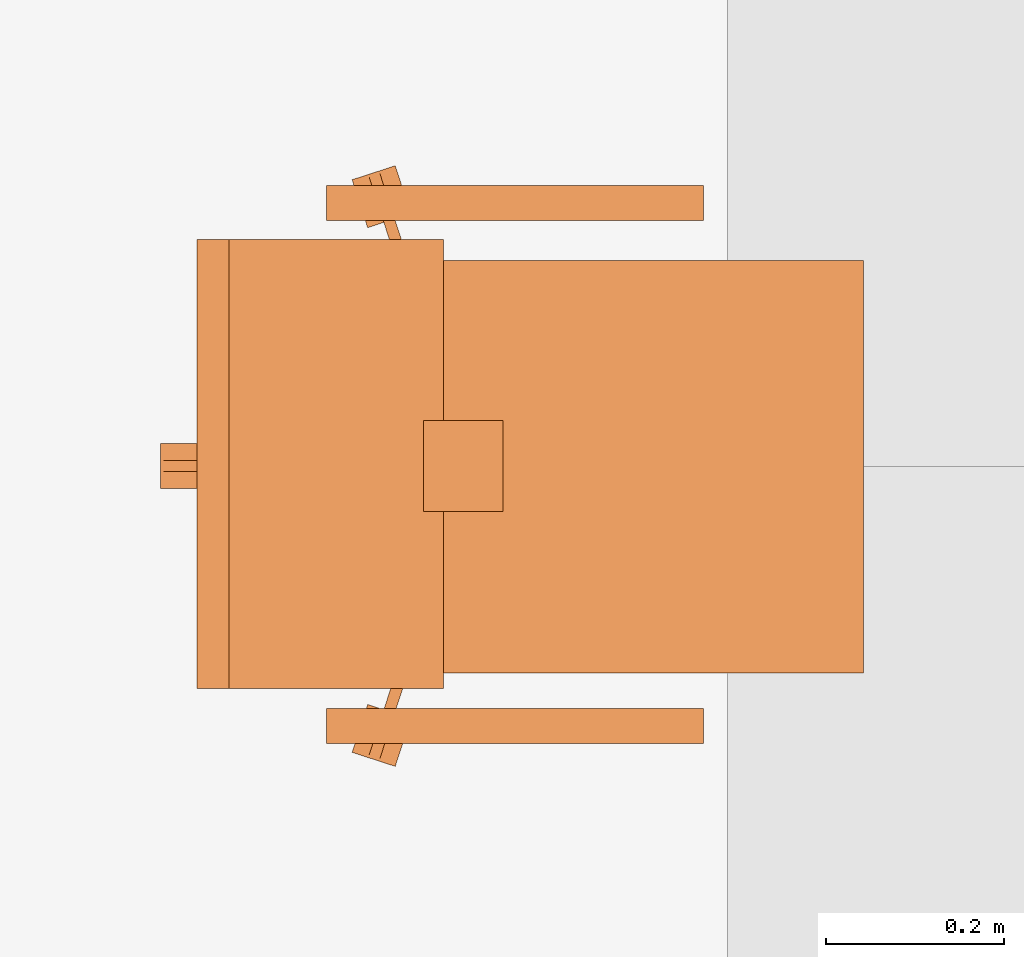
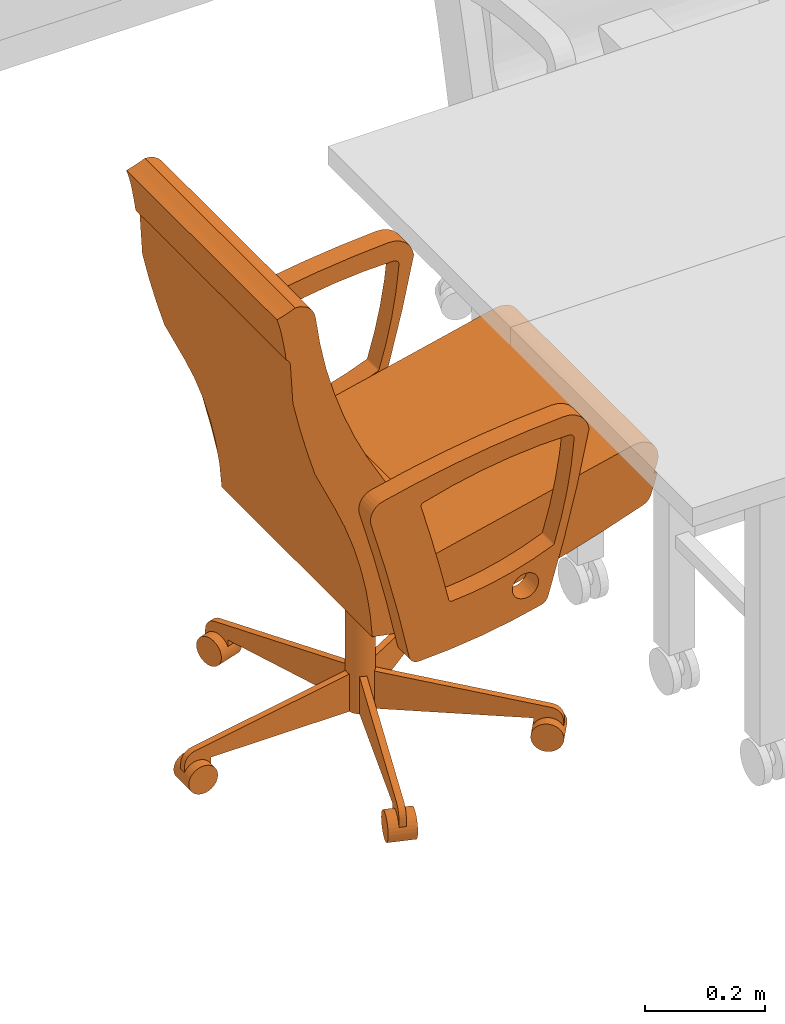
# One storey, part 59 of 142: 1 proxy.
"""IFC2X3 building model written with IfcOpenShell, lengths in feet."""

from ifc_helpers import new_model, entity, si_unit, converted_unit, derived_unit, direction, frame, frame_2d, origin, place, context, subcontext, project, spatial, polyline, circle_curve, parameter, trimmed, segment, composite_curve, circle, outline, extrude, source, transform, mapped, type_object, type_shapes, element, save


model = new_model("IFC2X3")

# Units and contexts
model_context = context("Model", 3, precision=0.0001, world=origin(), true_north=direction((6.12303176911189e-17, 1.0)))
body_context = subcontext(model_context, "Body", "Model", "MODEL_VIEW")
ifc_project = project(units=[converted_unit("LENGTHUNIT", "FOOT", entity("IfcRatioMeasure", 0.3048), si_unit("LENGTHUNIT", "METRE"), dimensions=[1, 0, 0, 0, 0, 0, 0]), converted_unit("AREAUNIT", "SQUARE FOOT", entity("IfcRatioMeasure", 0.09290304), si_unit("AREAUNIT", "SQUARE_METRE"), dimensions=[2, 0, 0, 0, 0, 0, 0]), converted_unit("VOLUMEUNIT", "CUBIC FOOT", entity("IfcRatioMeasure", 0.028316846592), si_unit("VOLUMEUNIT", "CUBIC_METRE"), dimensions=[3, 0, 0, 0, 0, 0, 0]), converted_unit("PLANEANGLEUNIT", "DEGREE", entity("IfcRatioMeasure", 0.0174532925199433), si_unit("PLANEANGLEUNIT", "RADIAN"), dimensions=[0, 0, 0, 0, 0, 0, 0]), si_unit("MASSUNIT", "GRAM", prefix="KILO"), derived_unit("MASSDENSITYUNIT", [(si_unit("MASSUNIT", "GRAM", prefix="KILO"), 1), (si_unit("LENGTHUNIT", "METRE"), -3)]), si_unit("TIMEUNIT", "SECOND"), si_unit("FREQUENCYUNIT", "HERTZ"), si_unit("THERMODYNAMICTEMPERATUREUNIT", "DEGREE_CELSIUS"), derived_unit("THERMALTRANSMITTANCEUNIT", [(si_unit("MASSUNIT", "GRAM", prefix="KILO"), 1), (si_unit("THERMODYNAMICTEMPERATUREUNIT", "KELVIN"), -1), (si_unit("TIMEUNIT", "SECOND"), -3)]), derived_unit("VOLUMETRICFLOWRATEUNIT", [(si_unit("LENGTHUNIT", "METRE"), 3), (si_unit("TIMEUNIT", "SECOND"), -1)]), si_unit("ELECTRICCURRENTUNIT", "AMPERE"), si_unit("ELECTRICVOLTAGEUNIT", "VOLT"), si_unit("POWERUNIT", "WATT"), si_unit("FORCEUNIT", "NEWTON"), si_unit("ILLUMINANCEUNIT", "LUX"), si_unit("LUMINOUSFLUXUNIT", "LUMEN"), si_unit("LUMINOUSINTENSITYUNIT", "CANDELA"), derived_unit("USERDEFINED", [(si_unit("MASSUNIT", "GRAM", prefix="KILO"), -1), (si_unit("LENGTHUNIT", "METRE"), -2), (si_unit("TIMEUNIT", "SECOND"), 3), (si_unit("LUMINOUSFLUXUNIT", "LUMEN"), 1)]), derived_unit("LINEARVELOCITYUNIT", [(si_unit("LENGTHUNIT", "METRE"), 1), (si_unit("TIMEUNIT", "SECOND"), -1)]), si_unit("PRESSUREUNIT", "PASCAL"), derived_unit("USERDEFINED", [(si_unit("LENGTHUNIT", "METRE"), -2), (si_unit("MASSUNIT", "GRAM", prefix="KILO"), 1), (si_unit("TIMEUNIT", "SECOND"), -2)])], contexts=[model_context])

# Site, building, storey, space
site_placement = place(None, origin())
site = spatial("IfcSite", under=ifc_project, at=site_placement, Name="Default", CompositionType="ELEMENT")
building_placement = place(site_placement, origin())
building = spatial("IfcBuilding", under=site, at=building_placement, Name="OUTPATIENT / PACT CLINIC (Ch. 265)", CompositionType="ELEMENT")
storey_placement = place(building_placement, origin())
storey = spatial("IfcBuildingStorey", under=building, at=storey_placement, Name="LEVEL 1", CompositionType="ELEMENT", Elevation=0.0)
space_placement = place(storey_placement, origin())
space = spatial("IfcSpace", under=storey, at=space_placement, Name="WRTM1", CompositionType="ELEMENT", InteriorOrExteriorSpace="INTERNAL")

# Proxy
building_element_proxy_type = type_object("IfcBuildingElementProxyType", Name="F0220 - Chair, Conference", PredefinedType="NOTDEFINED")
shared_shape = source(origin(), body_context, "Body", "SweptSolid", [
    extrude(outline(composite_curve([segment(trimmed(circle_curve(frame_2d((-0.548378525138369, -0.54006253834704), x_axis=(1.0, 0.0)), 0.156713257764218), [parameter(187.136710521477)], [parameter(273.006994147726)], True, "PARAMETER"), True, "CONTINUOUS"), segment(trimmed(circle_curve(frame_2d((-0.866637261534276, 5.51852508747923), x_axis=(1.0, 0.0)), 6.22365422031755), [parameter(273.006994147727)], [parameter(283.63517906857)], True, "PARAMETER"), True, "CONTINUOUS"), segment(trimmed(circle_curve(frame_2d((0.575436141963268, -0.426318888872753), x_axis=(1.0, 0.0)), 0.106404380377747), [parameter(283.63517906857)], [parameter(16.3648209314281)], True, "PARAMETER"), True, "CONTINUOUS"), segment(trimmed(circle_curve(frame_2d((12.2871693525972, 3.01281927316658), x_axis=(1.0, 0.0)), 12.0998385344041), [parameter(191.635179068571)], [parameter(196.364820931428)], True, "PARAMETER"), False, "CONTINUOUS"), segment(trimmed(circle_curve(frame_2d((0.374732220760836, 0.559015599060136), x_axis=(1.0, 0.0)), 0.0627049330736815), [parameter(12.4480385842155)], [parameter(91.6711811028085)], True, "PARAMETER"), True, "CONTINUOUS"), segment(trimmed(circle_curve(frame_2d((0.478250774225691, -2.98907031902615), x_axis=(1.0, 0.0)), 3.61230065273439), [parameter(91.6711811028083)], [parameter(104.057744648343)], True, "PARAMETER"), True, "CONTINUOUS"), segment(trimmed(circle_curve(frame_2d((-0.383994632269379, 0.454418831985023), x_axis=(1.0, 0.0)), 0.0625), [parameter(104.057744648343)], [parameter(162.816884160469)], True, "PARAMETER"), True, "CONTINUOUS"), segment(trimmed(circle_curve(frame_2d((9.14984606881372, -2.49371945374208), x_axis=(1.0, 0.0)), 10.0417603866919), [parameter(162.816884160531)], [parameter(168.894605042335)], True, "PARAMETER"), True, "CONTINUOUS")], self_intersect=False), holes=[composite_curve([segment(trimmed(circle_curve(frame_2d((12.2923776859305, 3.01281927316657), x_axis=(1.0, 0.0)), 12.4123385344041), [parameter(192.741870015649)], [parameter(195.991286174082)], True, "PARAMETER"), True, "CONTINUOUS"), segment(trimmed(circle_curve(frame_2d((0.340324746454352, -0.412409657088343), x_axis=(1.0, 0.0)), 0.0208333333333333), [parameter(286.604073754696)], [parameter(15.9912861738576)], True, "PARAMETER"), False, "CONTINUOUS"), segment(trimmed(circle_curve(frame_2d((-0.540439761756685, 2.54128905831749), x_axis=(1.0, 0.0)), 3.1030536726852), [parameter(269.369775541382)], [parameter(286.604073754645)], True, "PARAMETER"), False, "CONTINUOUS"), segment(trimmed(circle_curve(frame_2d((-0.574176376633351, -0.525693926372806), x_axis=(1.0, 0.0)), 0.0358851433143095), [parameter(161.887842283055)], [parameter(269.369775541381)], True, "PARAMETER"), False, "CONTINUOUS"), segment(trimmed(circle_curve(frame_2d((2.4385579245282, -0.768421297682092), x_axis=(1.0, 0.0)), 3.05740066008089), [parameter(162.893812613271)], [parameter(175.236734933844)], True, "PARAMETER"), False, "CONTINUOUS"), segment(trimmed(circle_curve(frame_2d((-0.469775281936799, 0.128159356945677), x_axis=(1.0, 0.0)), 0.0140798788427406), [parameter(113.070266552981)], [parameter(168.803309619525)], True, "PARAMETER"), False, "CONTINUOUS"), segment(trimmed(circle_curve(frame_2d((0.277251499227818, -1.62574197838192), x_axis=(1.0, 0.0)), 1.92044262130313), [parameter(93.3759131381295)], [parameter(113.070266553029)], True, "PARAMETER"), False, "CONTINUOUS"), segment(trimmed(circle_curve(frame_2d((0.165389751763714, 0.270570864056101), x_axis=(1.0, 0.0)), 0.0208333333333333), [parameter(12.7418700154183)], [parameter(93.375913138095)], True, "PARAMETER"), False, "CONTINUOUS")], self_intersect=False), composite_curve([segment(trimmed(circle_curve(frame_2d((-0.300575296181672, 0.351220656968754), x_axis=(1.0, 0.0)), 0.0833333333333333), [parameter(180.0)], [parameter(0.0)], True, "PARAMETER"), False, "CONTINUOUS"), segment(trimmed(circle_curve(frame_2d((-0.300575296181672, 0.351220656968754), x_axis=(1.0, 0.0)), 0.0833333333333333), [parameter(3.05333249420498e-13)], [parameter(180.0)], True, "PARAMETER"), False, "CONTINUOUS")], self_intersect=False)]), frame((-1.03331274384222, -0.0541567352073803, 1.78474215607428), z_axis=(1.0, 0.0, 0.0), x_axis=(0.0, -1.0, 0.0)), (0.0, 0.0, 1.0), 0.128812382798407),
    extrude(outline(composite_curve([segment(trimmed(circle_curve(frame_2d((-0.548378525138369, -0.54006253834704), x_axis=(1.0, 0.0)), 0.156713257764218), [parameter(187.136710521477)], [parameter(273.006994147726)], True, "PARAMETER"), True, "CONTINUOUS"), segment(trimmed(circle_curve(frame_2d((-0.866637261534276, 5.51852508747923), x_axis=(1.0, 0.0)), 6.22365422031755), [parameter(273.006994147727)], [parameter(283.63517906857)], True, "PARAMETER"), True, "CONTINUOUS"), segment(trimmed(circle_curve(frame_2d((0.575436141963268, -0.426318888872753), x_axis=(1.0, 0.0)), 0.106404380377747), [parameter(283.63517906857)], [parameter(16.3648209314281)], True, "PARAMETER"), True, "CONTINUOUS"), segment(trimmed(circle_curve(frame_2d((12.2871693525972, 3.01281927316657), x_axis=(1.0, 0.0)), 12.0998385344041), [parameter(191.635179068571)], [parameter(196.364820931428)], True, "PARAMETER"), False, "CONTINUOUS"), segment(trimmed(circle_curve(frame_2d((0.374732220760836, 0.559015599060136), x_axis=(1.0, 0.0)), 0.0627049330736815), [parameter(12.4480385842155)], [parameter(91.6711811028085)], True, "PARAMETER"), True, "CONTINUOUS"), segment(trimmed(circle_curve(frame_2d((0.478250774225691, -2.98907031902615), x_axis=(1.0, 0.0)), 3.61230065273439), [parameter(91.6711811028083)], [parameter(104.057744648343)], True, "PARAMETER"), True, "CONTINUOUS"), segment(trimmed(circle_curve(frame_2d((-0.383994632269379, 0.454418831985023), x_axis=(1.0, 0.0)), 0.0625), [parameter(104.057744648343)], [parameter(162.816884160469)], True, "PARAMETER"), True, "CONTINUOUS"), segment(trimmed(circle_curve(frame_2d((9.14984606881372, -2.49371945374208), x_axis=(1.0, 0.0)), 10.0417603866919), [parameter(162.816884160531)], [parameter(168.894605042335)], True, "PARAMETER"), True, "CONTINUOUS")], self_intersect=False), holes=[composite_curve([segment(trimmed(circle_curve(frame_2d((12.2923776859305, 3.01281927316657), x_axis=(1.0, 0.0)), 12.4123385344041), [parameter(192.741870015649)], [parameter(195.991286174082)], True, "PARAMETER"), True, "CONTINUOUS"), segment(trimmed(circle_curve(frame_2d((0.340324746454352, -0.412409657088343), x_axis=(1.0, 0.0)), 0.0208333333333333), [parameter(286.604073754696)], [parameter(15.9912861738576)], True, "PARAMETER"), False, "CONTINUOUS"), segment(trimmed(circle_curve(frame_2d((-0.540439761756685, 2.54128905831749), x_axis=(1.0, 0.0)), 3.1030536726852), [parameter(269.369775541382)], [parameter(286.604073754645)], True, "PARAMETER"), False, "CONTINUOUS"), segment(trimmed(circle_curve(frame_2d((-0.574176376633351, -0.525693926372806), x_axis=(1.0, 0.0)), 0.0358851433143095), [parameter(161.887842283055)], [parameter(269.369775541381)], True, "PARAMETER"), False, "CONTINUOUS"), segment(trimmed(circle_curve(frame_2d((2.4385579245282, -0.768421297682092), x_axis=(1.0, 0.0)), 3.05740066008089), [parameter(162.893812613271)], [parameter(175.236734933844)], True, "PARAMETER"), False, "CONTINUOUS"), segment(trimmed(circle_curve(frame_2d((-0.469775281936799, 0.128159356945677), x_axis=(1.0, 0.0)), 0.0140798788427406), [parameter(113.070266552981)], [parameter(168.803309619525)], True, "PARAMETER"), False, "CONTINUOUS"), segment(trimmed(circle_curve(frame_2d((0.277251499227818, -1.62574197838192), x_axis=(1.0, 0.0)), 1.92044262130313), [parameter(93.3759131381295)], [parameter(113.070266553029)], True, "PARAMETER"), False, "CONTINUOUS"), segment(trimmed(circle_curve(frame_2d((0.165389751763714, 0.270570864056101), x_axis=(1.0, 0.0)), 0.0208333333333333), [parameter(12.7418700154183)], [parameter(93.375913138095)], True, "PARAMETER"), False, "CONTINUOUS")], self_intersect=False), composite_curve([segment(trimmed(circle_curve(frame_2d((-0.300575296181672, 0.351220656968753), x_axis=(1.0, 0.0)), 0.0833333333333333), [parameter(180.0)], [parameter(0.0)], True, "PARAMETER"), False, "CONTINUOUS"), segment(trimmed(circle_curve(frame_2d((-0.300575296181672, 0.351220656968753), x_axis=(1.0, 0.0)), 0.0833333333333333), [parameter(3.05333249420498e-13)], [parameter(180.0)], True, "PARAMETER"), False, "CONTINUOUS")], self_intersect=False)]), frame((0.889516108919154, -0.0541567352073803, 1.78474215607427), z_axis=(1.0, 0.0, 0.0), x_axis=(0.0, -1.0, 0.0)), (0.0, 0.0, 1.0), 0.128812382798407),
    extrude(outline(composite_curve([segment(trimmed(circle_curve(frame_2d((0.770862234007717, -1.97589519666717), x_axis=(1.0, 0.0)), 2.24250574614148), [parameter(83.7744840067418)], [parameter(104.587152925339)], True, "PARAMETER"), True, "CONTINUOUS"), segment(trimmed(circle_curve(frame_2d((2.30952075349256, -7.88833070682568), x_axis=(1.0, 0.0)), 8.35187262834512), [parameter(104.587152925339)], [parameter(109.615059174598)], True, "PARAMETER"), True, "CONTINUOUS"), segment(trimmed(circle_curve(frame_2d((-0.466775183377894, -0.0980657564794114), x_axis=(1.0, 0.0)), 0.0816823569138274), [parameter(109.6150591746)], [parameter(157.671413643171)], True, "PARAMETER"), True, "CONTINUOUS"), segment(trimmed(circle_curve(frame_2d((0.971574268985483, -0.5925380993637), x_axis=(1.0, 0.0)), 1.60252010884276), [parameter(160.857176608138)], [parameter(166.076927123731)], True, "PARAMETER"), True, "CONTINUOUS"), segment(trimmed(circle_curve(frame_2d((-0.579633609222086, -0.207989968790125), x_axis=(1.0, 0.0)), 0.00435768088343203), [parameter(166.076927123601)], [parameter(280.378705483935)], True, "PARAMETER"), True, "CONTINUOUS"), segment(trimmed(circle_curve(frame_2d((16.5125965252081, -93.5315619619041), x_axis=(1.0, 0.0)), 94.871526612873), [parameter(99.4235676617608)], [parameter(100.378705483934)], True, "PARAMETER"), False, "CONTINUOUS"), segment(trimmed(circle_curve(frame_2d((1.87003600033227, -0.000965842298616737), x_axis=(1.0, 0.0)), 0.89298195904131), [parameter(163.451060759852)], [parameter(176.106880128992)], True, "PARAMETER"), False, "CONTINUOUS")], self_intersect=False)), frame((-0.758282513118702, 0.647436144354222, 1.48104866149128), z_axis=(1.0, 0.0, 0.0), x_axis=(0.0, -1.0, 0.0)), (0.0, 0.0, 1.0), 1.51656502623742),
    extrude(outline(composite_curve([segment(trimmed(circle_curve(frame_2d((16.4660541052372, -93.3276059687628), x_axis=(1.0, 0.0)), 94.871526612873), [parameter(99.4253791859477)], [parameter(100.368473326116)], True, "PARAMETER"), True, "CONTINUOUS"), segment(polyline([(-0.608725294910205, -0.00526957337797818), (-0.631085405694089, -0.0702080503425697)]), True, "CONTINUOUS"), segment(trimmed(circle_curve(frame_2d((-0.507608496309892, -0.112724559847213), x_axis=(1.0, 0.0)), 0.130591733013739), [parameter(161.000000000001)], [parameter(282.525711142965)], True, "PARAMETER"), True, "CONTINUOUS"), segment(polyline([(-0.479286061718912, -0.240208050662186), (0.789483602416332, 0.0525572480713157)]), True, "CONTINUOUS"), segment(trimmed(circle_curve(frame_2d((0.748071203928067, 0.23202795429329), x_axis=(1.0, 0.0)), 0.184186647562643), [parameter(282.993429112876)], [parameter(9.72113802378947)], True, "PARAMETER"), True, "CONTINUOUS")], self_intersect=False)), frame((-0.758282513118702, 0.600893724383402, 1.6850046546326), z_axis=(1.0, 0.0, 0.0), x_axis=(0.0, -1.0, 0.0)), (0.0, 0.0, 1.0), 1.51656502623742),
    extrude(outline(composite_curve([segment(trimmed(circle_curve(frame_2d((0.782331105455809, -5.68137094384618), x_axis=(-0.420119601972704, 0.907468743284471)), 5.89579235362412), [parameter(342.407441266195)], [parameter(347.674731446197)], True, "PARAMETER"), True, "CONTINUOUS"), segment(polyline([(-0.495446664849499, 0.0742916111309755), (-0.742416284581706, -0.0223565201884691)]), True, "CONTINUOUS"), segment(trimmed(circle_curve(frame_2d((-0.761539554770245, 0.0265100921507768), x_axis=(-0.420119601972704, 0.907468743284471)), 0.0524751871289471), [parameter(121.399025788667)], [parameter(176.530061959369)], True, "PARAMETER"), False, "CONTINUOUS"), segment(trimmed(circle_curve(frame_2d((-0.772508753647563, -0.152384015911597), x_axis=(-0.420119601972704, 0.907468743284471)), 0.136484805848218), [parameter(342.817239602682)], [parameter(358.256726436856)], True, "PARAMETER"), True, "CONTINUOUS"), segment(polyline([(-0.82605432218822, -0.0268412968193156), (-0.939530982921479, -0.0580534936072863)]), True, "CONTINUOUS"), segment(trimmed(circle_curve(frame_2d((-1.17061269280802, 0.782079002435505), x_axis=(-0.420119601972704, 0.907468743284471)), 0.871333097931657), [parameter(161.216169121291)], [parameter(170.536983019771)], True, "PARAMETER"), False, "CONTINUOUS"), segment(trimmed(circle_curve(frame_2d((-1.8181528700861, -0.2248215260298), x_axis=(-0.420119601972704, 0.907468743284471)), 0.752717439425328), [parameter(246.521848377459)], [parameter(255.910489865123)], True, "PARAMETER"), False, "CONTINUOUS"), segment(trimmed(circle_curve(frame_2d((-0.949337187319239, -0.155867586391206), x_axis=(-0.420119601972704, 0.907468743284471)), 0.127016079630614), [parameter(88.8492703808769)], [parameter(173.15072961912)], True, "PARAMETER"), True, "CONTINUOUS"), segment(trimmed(circle_curve(frame_2d((0.0257178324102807, -3.15804982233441), x_axis=(-0.420119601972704, 0.907468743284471)), 3.02953749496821), [parameter(328.849270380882)], [parameter(353.150729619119)], True, "PARAMETER"), False, "CONTINUOUS"), segment(trimmed(circle_curve(frame_2d((0.483690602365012, 0.984520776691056), x_axis=(-0.420119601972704, 0.907468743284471)), 1.13827130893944), [parameter(148.849270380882)], [parameter(180.0)], True, "PARAMETER"), True, "CONTINUOUS"), segment(trimmed(circle_curve(frame_2d((1.07518053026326, -0.33138149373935), x_axis=(-0.420119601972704, 0.907468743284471)), 0.304789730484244), [parameter(317.298982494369)], [parameter(356.976233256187)], True, "PARAMETER"), False, "CONTINUOUS"), segment(trimmed(circle_curve(frame_2d((1.31918409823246, -0.14741320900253), x_axis=(-0.420119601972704, 0.907468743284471)), 0.184186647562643), [parameter(355.215711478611)], [parameter(29.9715875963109)], True, "PARAMETER"), False, "CONTINUOUS"), segment(trimmed(circle_curve(frame_2d((0.841027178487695, 0.816299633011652), x_axis=(-0.420119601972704, 0.907468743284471)), 0.89298195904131), [parameter(182.849969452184)], [parameter(196.548939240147)], True, "PARAMETER"), True, "CONTINUOUS"), segment(trimmed(circle_curve(frame_2d((-0.48937503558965, -1.01087273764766), x_axis=(-0.420119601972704, 0.907468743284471)), 2.24250574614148), [parameter(276.225515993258)], [parameter(282.457471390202)], True, "PARAMETER"), True, "CONTINUOUS"), segment(trimmed(circle_curve(frame_2d((0.339089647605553, 2.78255473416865), x_axis=(-0.420119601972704, 0.907468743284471)), 2.61526502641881), [parameter(155.15786130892)], [parameter(176.584898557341)], True, "PARAMETER"), False, "CONTINUOUS"), segment(polyline([(0.339089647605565, 0.167289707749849), (0.0383310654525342, 0.167289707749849)]), True, "CONTINUOUS")], self_intersect=False)), frame((-0.836149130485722, -0.835165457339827, 2.58816385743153), z_axis=(-1.0, 0.0, 0.0), x_axis=(0.0, 0.420119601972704, -0.907468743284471)), (0.0, 0.0, -1.0), 1.65266976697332),
    extrude(circle(Radius=0.0833333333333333, at=frame_2d((0.0, -1.11022302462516e-16), x_axis=(1.0, 0.0))), frame((-0.00206593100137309, -0.212136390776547, 0.173534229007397)), (0.0, 0.0, 1.0), 1.0846174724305),
    extrude(circle(Radius=0.0925205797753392, at=frame_2d((0.0, -1.52655665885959e-16), x_axis=(1.0, 0.0))), frame((0.962866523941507, -0.613283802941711, 0.0902008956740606), z_axis=(0.309016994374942, 0.951056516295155, 0.0), x_axis=(0.951056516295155, -0.309016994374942, 0.0)), (0.0, 0.0, 1.0), 0.166666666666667),
    extrude(outline(composite_curve([segment(polyline([(-0.29506616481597, -0.0510253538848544), (0.663267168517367, -0.0510253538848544)]), True, "CONTINUOUS"), segment(polyline([(0.663267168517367, -0.0510253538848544), (0.663267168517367, 0.198974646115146)]), True, "CONTINUOUS"), segment(polyline([(0.663267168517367, 0.198974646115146), (0.579933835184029, 0.198974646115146)]), True, "CONTINUOUS"), segment(polyline([(0.579933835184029, 0.198974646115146), (-0.392870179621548, 0.027443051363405)]), True, "CONTINUOUS"), segment(trimmed(circle_curve(frame_2d((-0.378399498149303, -0.0546242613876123), x_axis=(-1.0, 0.0)), 0.0833333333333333), [parameter(280.0)], [parameter(0.0)], True, "PARAMETER"), True, "CONTINUOUS"), segment(polyline([(-0.461732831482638, -0.0546242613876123), (-0.461732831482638, -0.134358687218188)]), True, "CONTINUOUS"), segment(polyline([(-0.461732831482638, -0.134358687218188), (-0.29506616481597, -0.134358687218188)]), True, "CONTINUOUS"), segment(polyline([(-0.29506616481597, -0.134358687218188), (-0.29506616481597, -0.0510253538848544)]), True, "CONTINUOUS")], self_intersect=False)), frame((0.62230077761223, -0.436910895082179, 0.224559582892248), z_axis=(0.309016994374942, 0.951056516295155, 0.0), x_axis=(-0.951056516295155, 0.309016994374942, 0.0)), (0.0, 0.0, 1.0), 0.0416666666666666),
    extrude(circle(Radius=0.0925205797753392, at=frame_2d((0.0, -1.52655665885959e-16), x_axis=(1.0, 0.0))), frame((0.677628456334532, 0.581607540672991, 0.0902008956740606), z_axis=(-0.80901699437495, 0.58778525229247, 0.0), x_axis=(0.58778525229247, 0.80901699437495, 0.0)), (0.0, 0.0, 1.0), 0.166666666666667),
    extrude(outline(composite_curve([segment(polyline([(0.051025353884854, 0.295066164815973), (0.134358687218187, 0.295066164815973)]), True, "CONTINUOUS"), segment(polyline([(0.134358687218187, 0.295066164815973), (0.134358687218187, 0.461732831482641)]), True, "CONTINUOUS"), segment(polyline([(0.134358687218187, 0.461732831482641), (0.0546242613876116, 0.461732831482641)]), True, "CONTINUOUS"), segment(trimmed(circle_curve(frame_2d((0.0546242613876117, 0.378399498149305), x_axis=(0.0, 1.0)), 0.0833333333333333), [parameter(0.0)], [parameter(79.9999999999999)], True, "PARAMETER"), True, "CONTINUOUS"), segment(polyline([(-0.0274430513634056, 0.392870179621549), (-0.198974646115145, -0.579933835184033)]), True, "CONTINUOUS"), segment(polyline([(-0.198974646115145, -0.579933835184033), (-0.198974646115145, -0.66326716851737)]), True, "CONTINUOUS"), segment(polyline([(-0.198974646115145, -0.66326716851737), (0.0510253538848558, -0.66326716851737)]), True, "CONTINUOUS"), segment(polyline([(0.0510253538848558, -0.66326716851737), (0.051025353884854, 0.295066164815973)]), True, "CONTINUOUS")], self_intersect=False)), frame((0.370938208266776, 0.336703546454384, 0.224559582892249), z_axis=(0.80901699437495, -0.58778525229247, 0.0), x_axis=(0.0, 0.0, -1.0)), (0.0, 0.0, 1.0), 0.0416666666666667),
    extrude(circle(Radius=0.0925205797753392, at=frame_2d((0.0, -1.52655665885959e-16), x_axis=(1.0, 0.0))), frame((-0.681760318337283, 0.581607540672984, 0.0902008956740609), z_axis=(0.809016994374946, 0.587785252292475, 0.0), x_axis=(-0.587785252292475, 0.809016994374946, 0.0)), (0.0, 0.0, 1.0), 0.166666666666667),
    extrude(outline(composite_curve([segment(polyline([(0.0510253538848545, 0.29506616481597), (0.134358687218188, 0.29506616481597)]), True, "CONTINUOUS"), segment(polyline([(0.134358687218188, 0.29506616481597), (0.134358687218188, 0.461732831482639)]), True, "CONTINUOUS"), segment(polyline([(0.134358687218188, 0.461732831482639), (0.0546242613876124, 0.461732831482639)]), True, "CONTINUOUS"), segment(trimmed(circle_curve(frame_2d((0.0546242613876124, 0.378399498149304), x_axis=(0.0, 1.0)), 0.0833333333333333), [parameter(0.0)], [parameter(79.9999999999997)], True, "PARAMETER"), True, "CONTINUOUS"), segment(polyline([(-0.0274430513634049, 0.392870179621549), (-0.198974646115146, -0.57993383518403)]), True, "CONTINUOUS"), segment(polyline([(-0.198974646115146, -0.57993383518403), (-0.198974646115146, -0.663267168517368)]), True, "CONTINUOUS"), segment(polyline([(-0.198974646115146, -0.663267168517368), (0.0510253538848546, -0.663267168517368)]), True, "CONTINUOUS"), segment(polyline([(0.0510253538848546, -0.663267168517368), (0.0510253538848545, 0.29506616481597)]), True, "CONTINUOUS")], self_intersect=False)), frame((-0.408779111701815, 0.312212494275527, 0.224559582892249), z_axis=(0.809016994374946, 0.587785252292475, 0.0), x_axis=(0.0, 0.0, -1.0)), (0.0, 0.0, 1.0), 0.0416666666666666),
    extrude(circle(Radius=0.0925205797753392, at=frame_2d((0.0, -1.52655665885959e-16), x_axis=(1.0, 0.0))), frame((-0.966998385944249, -0.613283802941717, 0.0902008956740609), z_axis=(-0.309016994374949, 0.951056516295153, 0.0), x_axis=(-0.951056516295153, -0.309016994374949, 0.0)), (0.0, 0.0, 1.0), 0.166666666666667),
    extrude(outline(composite_curve([segment(polyline([(0.0510253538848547, 0.29506616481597), (0.134358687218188, 0.29506616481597)]), True, "CONTINUOUS"), segment(polyline([(0.134358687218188, 0.29506616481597), (0.134358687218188, 0.461732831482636)]), True, "CONTINUOUS"), segment(polyline([(0.134358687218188, 0.461732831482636), (0.0546242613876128, 0.461732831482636)]), True, "CONTINUOUS"), segment(trimmed(circle_curve(frame_2d((0.0546242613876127, 0.378399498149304), x_axis=(0.0, 1.0)), 0.0833333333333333), [parameter(0.0)], [parameter(79.9999999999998)], True, "PARAMETER"), True, "CONTINUOUS"), segment(polyline([(-0.0274430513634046, 0.392870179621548), (-0.198974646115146, -0.579933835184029)]), True, "CONTINUOUS"), segment(polyline([(-0.198974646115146, -0.579933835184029), (-0.198974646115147, -0.663267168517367)]), True, "CONTINUOUS"), segment(polyline([(-0.198974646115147, -0.663267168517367), (0.0510253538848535, -0.663267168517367)]), True, "CONTINUOUS"), segment(polyline([(0.0510253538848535, -0.663267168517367), (0.0510253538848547, 0.29506616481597)]), True, "CONTINUOUS")], self_intersect=False)), frame((-0.626432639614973, -0.436910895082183, 0.224559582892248), z_axis=(-0.309016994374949, 0.951056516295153, 0.0), x_axis=(0.0, 0.0, -1.0)), (0.0, 0.0, 1.0), 0.0416666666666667),
    extrude(circle(Radius=0.0925205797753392, at=frame_2d((9.00566595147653e-34, -1.52655665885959e-16), x_axis=(1.0, 0.0))), frame((-0.0853992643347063, -1.25380305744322, 0.0902008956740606), z_axis=(1.0, 0.0, 0.0), x_axis=(0.0, -1.0, 0.0)), (0.0, 0.0, 1.0), 0.166666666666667),
    extrude(outline(composite_curve([segment(polyline([(-0.29506616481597, -0.0510253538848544), (0.663267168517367, -0.0510253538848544)]), True, "CONTINUOUS"), segment(polyline([(0.663267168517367, -0.0510253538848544), (0.663267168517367, 0.198974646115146)]), True, "CONTINUOUS"), segment(polyline([(0.663267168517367, 0.198974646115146), (0.579933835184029, 0.198974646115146)]), True, "CONTINUOUS"), segment(polyline([(0.579933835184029, 0.198974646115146), (-0.392870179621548, 0.027443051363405)]), True, "CONTINUOUS"), segment(trimmed(circle_curve(frame_2d((-0.378399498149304, -0.0546242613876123), x_axis=(-1.0, 0.0)), 0.0833333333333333), [parameter(280.0)], [parameter(0.0)], True, "PARAMETER"), True, "CONTINUOUS"), segment(polyline([(-0.461732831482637, -0.0546242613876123), (-0.461732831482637, -0.134358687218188)]), True, "CONTINUOUS"), segment(polyline([(-0.461732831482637, -0.134358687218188), (-0.29506616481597, -0.134358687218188)]), True, "CONTINUOUS"), segment(polyline([(-0.29506616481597, -0.134358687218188), (-0.29506616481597, -0.0510253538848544)]), True, "CONTINUOUS")], self_intersect=False)), frame((-0.0228992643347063, -0.875403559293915, 0.224559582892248), z_axis=(1.0, 0.0, 0.0), x_axis=(0.0, 1.0, 0.0)), (0.0, 0.0, 1.0), 0.0416666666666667),
    extrude(outline(polyline([(-0.140470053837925, -0.149999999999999), (-0.0988033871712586, -0.149999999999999), (0.189871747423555, 0.0166666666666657), (0.189871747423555, 0.141666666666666), (-0.140470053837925, 0.141666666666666), (-0.140470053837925, -0.149999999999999)])), frame((-0.168732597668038, -0.228803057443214, 1.57571509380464), z_axis=(1.0, 0.0, 0.0), x_axis=(0.0, 0.0, -1.0)), (0.0, 0.0, 1.0), 0.333333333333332),
])
type_shapes(building_element_proxy_type, [shared_shape])
proxy_placement = place(space_placement, frame((421.669346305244, -898.472588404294, 0.0), z_axis=(0.0, 0.0, 1.0), x_axis=(0.0, -1.0, 0.0)))
element("IfcBuildingElementProxy", 1, at=proxy_placement, inside=space, type_object=building_element_proxy_type, Name="F0220 - Chair, Conference:F0220 - Chair, Conference", ObjectType="F0220 - Chair, Conference", context=body_context, shape_type="MappedRepresentation", body=[
    mapped(shared_shape, transform((0.0, 0.0, 0.0), scale=1.0)),
])

save(model, "model.ifc")
